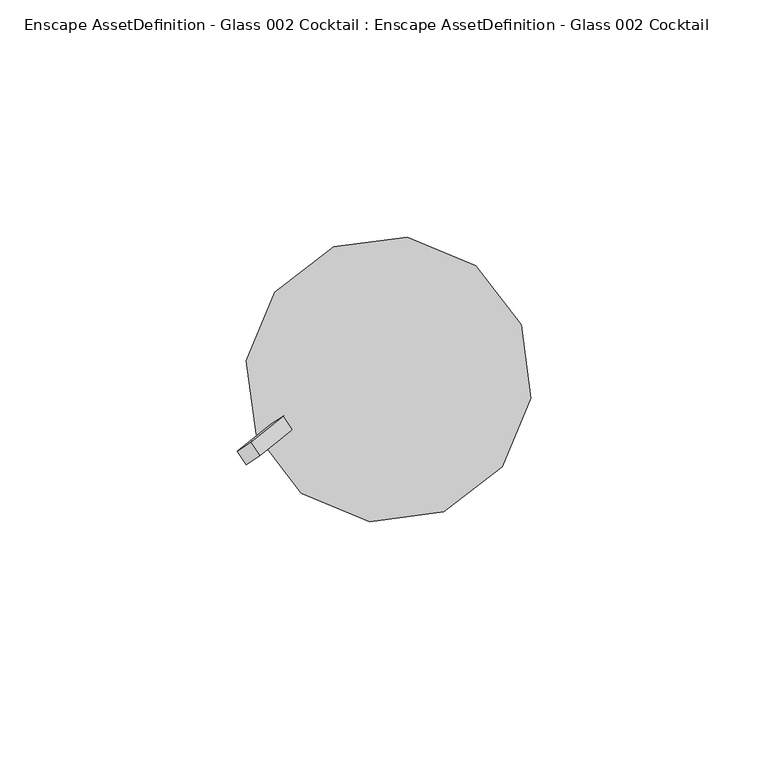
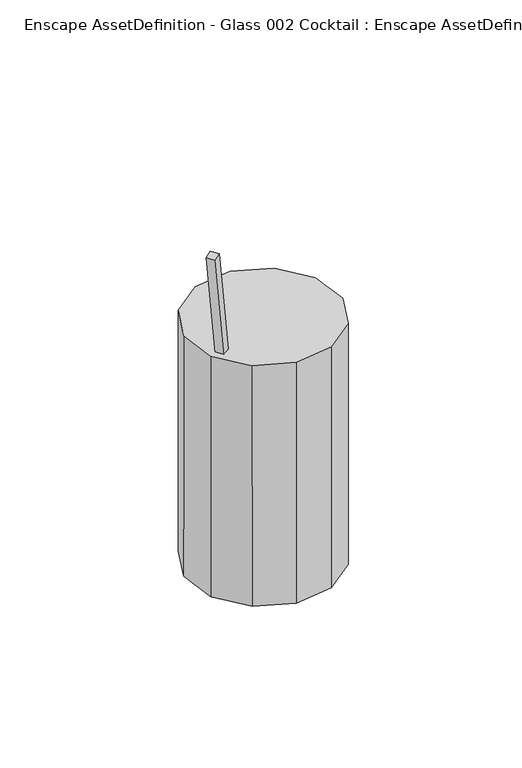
"""IFC4 building model written with IfcOpenShell, lengths in millimetres: geographic element geometry, Enscape AssetDefinition - Glass 002 Cocktail : Enscape AssetDefinition - Glass 002 Cocktail."""

from ifc_helpers import new_model, si_unit, origin, place, context, project, spatial, triangles, source, transform, mapped, element, save


def enscape_assetdefinition_glass_002_cocktail_enscape_3d217cfa(model_context):
    return source(origin(), model_context, "Body", "Tessellation", [
        triangles([(27.9305603, 11.5704136, 103.7359646), (29.9734839, -3.9449, 103.7359646), (23.9521831, -18.3775256, 0.3180234), (29.9320824, -3.9396141, 0.3180234), (27.8917977, 11.5545557, 0.3180234), (18.4030714, 23.9856612, 103.7359646), (23.9856612, -18.4030714, 103.7359646), (11.5704136, -27.9305603, 103.7359646), (11.5545557, -27.8917977, 0.3180234), (-3.9396141, -29.9320824, 0.3180234), (-3.9449, -29.9734839, 103.7359646), (-18.3775256, -23.9521831, 0.3180234), (-27.8917977, -11.5545557, 0.3180234), (-27.9305603, -11.5704136, 103.7359646), (-18.4030714, -23.9856612, 103.7359646), (0.0, 0.0, 103.5540534), (-29.9734839, 3.9449, 103.7359646), (-29.9320824, 3.9396141, 0.3180234), (18.3775256, 23.9521831, 0.3180234), (3.9396141, 29.9320824, 0.3180234), (0.0, 0.0, 0.3180234), (-23.9521831, 18.3775256, 0.3180234), (-23.9856612, 18.4030714, 103.7359646), (3.9449, 29.9734839, 103.7359646), (-11.5545557, 27.8917977, 0.3180234), (-11.5704136, 27.9305603, 103.7359646), (-27.1958464, -16.1258133, 150.1383194), (-30.0298667, -17.9824178, 149.5053457), (-31.9278772, -15.1061115, 149.5665792), (-10.6555451, -2.3666756, 16.9746089), (-9.7195353, 2.3666756, 17.6692397), (-7.8215253, -0.5100708, 17.6075735), (-12.5535545, 0.5100708, 17.0358345), (-29.0938569, -13.2495058, 150.1995438)], [[28, 27, 34], [34, 29, 28], [32, 30, 33], [33, 31, 32], [28, 29, 33], [33, 30, 28], [29, 34, 31], [31, 33, 29], [34, 27, 32], [32, 31, 34], [27, 28, 30], [30, 32, 27], [24, 6, 19], [26, 24, 20], [19, 20, 24], [20, 25, 26], [23, 26, 25], [26, 23, 16], [24, 26, 16], [6, 24, 16], [23, 17, 16], [17, 23, 22], [25, 22, 23], [22, 25, 21], [25, 20, 21], [20, 19, 21], [18, 22, 21], [22, 18, 17], [17, 14, 16], [14, 17, 18], [13, 18, 21], [18, 13, 14], [14, 15, 16], [15, 14, 13], [12, 13, 21], [13, 12, 15], [15, 11, 16], [11, 15, 12], [10, 12, 21], [12, 10, 11], [11, 8, 16], [8, 11, 10], [9, 10, 21], [10, 9, 8], [8, 7, 16], [7, 8, 9], [3, 9, 21], [9, 3, 7], [7, 2, 16], [2, 7, 3], [1, 6, 16], [2, 1, 16], [19, 5, 21], [6, 1, 5], [5, 19, 6], [4, 3, 21], [5, 4, 21], [3, 4, 2], [1, 2, 4], [4, 5, 1]]),
    ])


if __name__ == "__main__":
    model = new_model("IFC4")
    model_context = context("Model", 3, world=origin())
    ifc_project = project(units=[si_unit("LENGTHUNIT", "METRE", prefix="MILLI")], contexts=[model_context])
    site = spatial("IfcSite", under=ifc_project)
    building = spatial("IfcBuilding", under=site)
    placement = place(None, origin())
    enscape_assetdefinition_glass_002_cocktail_enscape_shape = enscape_assetdefinition_glass_002_cocktail_enscape_3d217cfa(model_context)
    element("IfcGeographicElement", 1, ObjectType="Enscape AssetDefinition - Glass 002 Cocktail : Enscape AssetDefinition - Glass 002 Cocktail", at=placement, inside=building, context=model_context, shape_type="MappedRepresentation", body=[
        mapped(enscape_assetdefinition_glass_002_cocktail_enscape_shape, transform((0.0, 0.0, 0.0), x_axis=(1.0, 0.0, 0.0), y_axis=(0.0, 1.0, 0.0), z_axis=(0.0, 0.0, 1.0))),
    ])
    save(model, "model.ifc")
